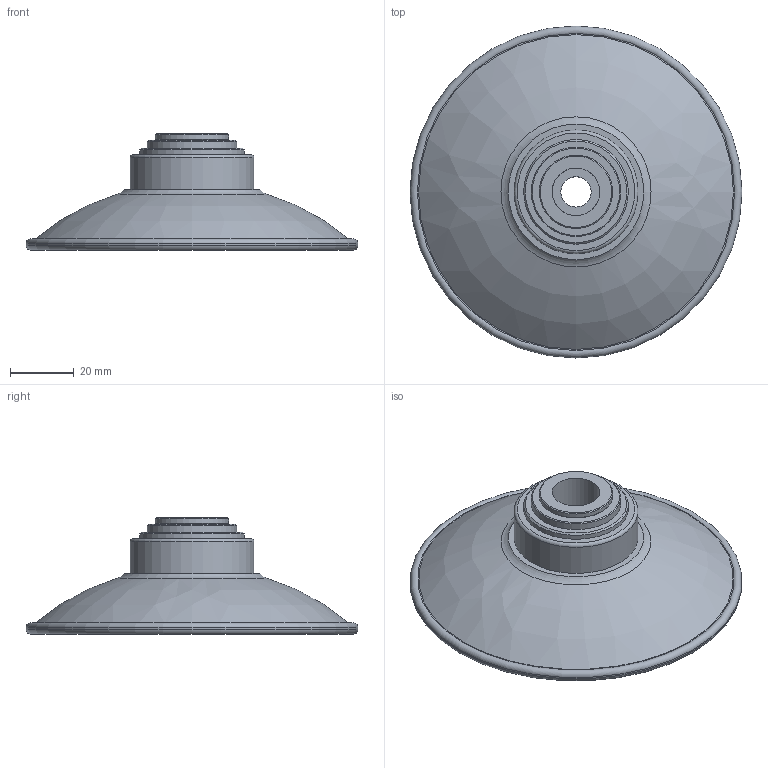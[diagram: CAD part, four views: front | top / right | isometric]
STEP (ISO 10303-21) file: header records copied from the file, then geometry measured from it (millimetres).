
FILE_DESCRIPTION( ( 'Unknown' ), '1' );
FILE_NAME( 'D:/弥龋覆(冠固急)/Smart Cup/寇何侩-唱荤魂TYPE/FCF100-38F.stp', 'Unknown', ( 'Unknown' ), ( 'Unknown' ), 'PSStep 10.0', 'Unknown', ' ' );
FILE_SCHEMA( ( 'AUTOMOTIVE_DESIGN { 1 0 10303 214 1 1 1 1 }' ) );
Length unit declared in the file: millimetre
Products named in the file (4): Assem1; FCF100; VDF-FCF-12F; VDF-FCF-12M38F
Bounding box: 104 x 104 x 36.43 mm (x, y, z)
Volume: 80376.8 mm3; surface area: 61804.4 mm2
Topology: 6 solids, 6 shells, 112 faces, 188 edges, 112 vertices
Faces by surface type: cylinder 40, plane 36, cone 20, torus 10, bspline 6
Full cylindrical faces by diameter (mm): 9.5 x2, 14.95 x2, 16.8 x6, 18.631 x2, 19 x2, 21 x2, 23 x2, 24 x4, 28 x2, 30.8 x2, 31.8 x2, 32.8 x6, 38.8 x2, 98 x2, 104 x2
Entity records: 1722 total; most frequent: CARTESIAN_POINT 253, DIRECTION 226, AXIS2_PLACEMENT_3D 113, EDGE_LOOP 112, ORIENTED_EDGE 112, FACE_OUTER_BOUND 84, STYLED_ITEM 56, PRESENTATION_STYLE_ASSIGNMENT 56
